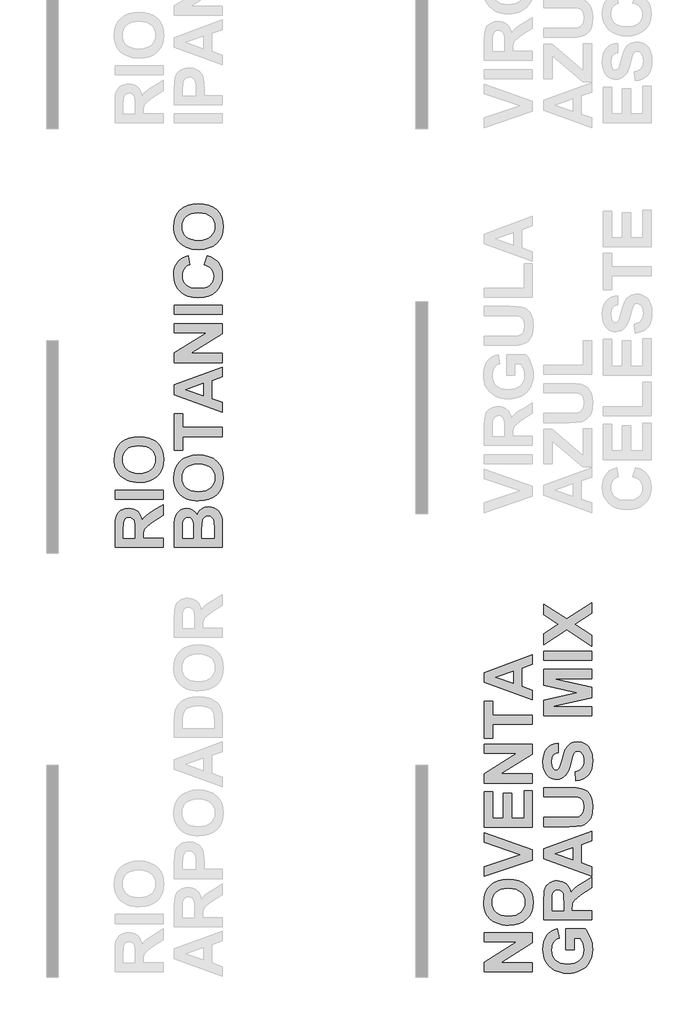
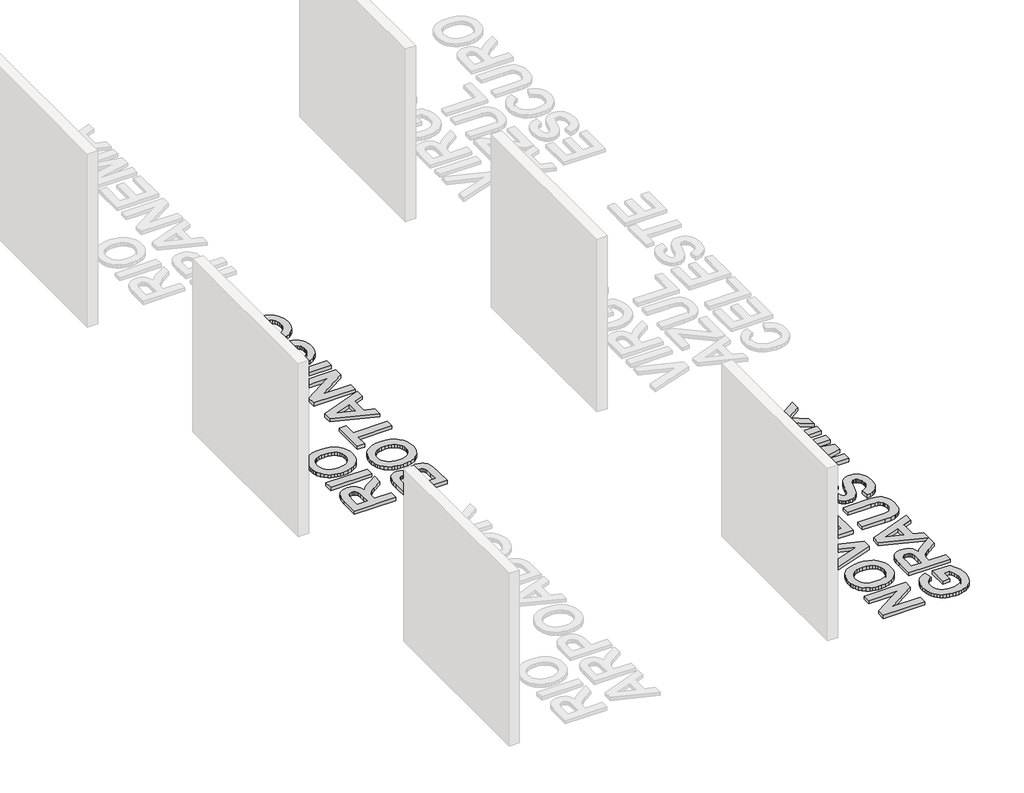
# One storey, part 5 of 12: 2 proxies.
"""IFC4 building model written with IfcOpenShell, lengths in millimetres."""

from ifc_helpers import new_model, si_unit, origin, origin_with_axes, place, context, project, spatial, polyline, outline, extrude, element, save

model = new_model("IFC4")

# Units and contexts
model_context = context("Model", 3, world=origin())
ifc_project = project(units=[si_unit("LENGTHUNIT", "METRE", prefix="MILLI")], contexts=[model_context])

# Site, building, storey
site = spatial("IfcSite", under=ifc_project)
building = spatial("IfcBuilding", under=site)
storey = spatial("IfcBuildingStorey", under=building, Name="PORTOBELLO - SHOWROOM", Elevation=0.0)

# Proxies
placement = place(None, origin())
element("IfcBuildingElementProxy", 1, Name="600mm Arial", ObjectType="600mm Arial", at=placement, inside=storey, context=model_context, shape_type="SweptSolid", body=[
    extrude(outline(polyline([(9936.2154342, -9153.3523318), (9324.0597942, -9153.3523318), (9324.0597942, -9031.1337579), (9736.1109864, -8774.3988404), (9324.0597942, -8774.3988404), (9324.0597942, -8657.7977661), (9936.2154342, -8657.7977661), (9936.2154342, -8783.811948), (9530.2372146, -9036.7512575), (9936.2154342, -9036.7512575), (9936.2154342, -9153.3523318)])), origin_with_axes(), (0.0, 0.0, 1.0), 50.0),
    extrude(outline(polyline([(9633.9332221, -8560.6302042), (9589.126071, -8558.9126917), (9548.0765717, -8553.7601539), (9510.7847242, -8545.1725911), (9477.2505285, -8533.1500031), (9433.0127186, -8508.9150468), (9393.5194186, -8477.2027429), (9361.1998174, -8440.0627197), (9338.4831042, -8399.5446055), (9327.9218253, -8370.3753589), (9320.3780546, -8339.0426158), (9315.8517922, -8305.5463762), (9314.343038, -8269.8866401), (9319.5762324, -8206.784659), (9335.2758155, -8150.3249917), (9361.4417874, -8100.5076382), (9398.074148, -8057.3325984), (9420.0281813, -8038.6510909), (9444.024726, -8022.460451), (9498.14535, -7997.5517742), (9560.4360199, -7982.6065682), (9630.8967358, -7977.6248328), (9700.8782562, -7982.5686121), (9762.7941099, -7997.3999499), (9816.6442968, -8022.1188463), (9840.5447652, -8038.1861289), (9862.4288169, -8056.7253012), (9898.9615428, -8099.6156703), (9925.056347, -8149.1863093), (9940.7132296, -8205.4372182), (9945.9321904, -8268.3683969), (9940.7369521, -8331.9638071), (9925.1512372, -8388.689167), (9899.1750457, -8438.5444765), (9862.8083777, -8481.5297359), (9817.3322507, -8516.1361908), (9764.0276824, -8540.8550871), (9702.8946729, -8555.6864249), (9633.9332221, -8560.6302042)]), holes=[polyline([(9629.6821413, -8444.0291299), (9678.1046089, -8440.930965), (9720.2833015, -8431.6364702), (9756.2182192, -8416.1456455), (9785.9093619, -8394.4584909), (9809.1574602, -8367.9983595), (9825.7632447, -8338.188604), (9835.7267154, -8305.0292246), (9839.0478723, -8268.5202213), (9835.750438, -8232.049174), (9825.8581349, -8199.0036628), (9809.3709631, -8169.3836878), (9786.2889227, -8143.1892488), (9756.6120135, -8121.7677868), (9720.3402356, -8106.4667425), (9677.4735891, -8097.286116), (9628.0120738, -8094.2259071), (9579.2385125, -8097.2054593), (9537.0693088, -8106.1441159), (9501.5044629, -8121.0418768), (9472.5439748, -8141.8987422), (9450.0929541, -8167.6898977), (9434.0565108, -8197.3905295), (9424.4346448, -8231.0006373), (9421.2273561, -8268.5202213), (9424.4726009, -8306.0777613), (9434.2083351, -8339.8017374), (9450.4345588, -8369.6921495), (9473.151272, -8395.7489976), (9502.4059198, -8416.8715555), (9538.2459473, -8431.9590969), (9580.6713544, -8441.0116217), (9629.6821413, -8444.0291299)])]), origin_with_axes(), (0.0, 0.0, 1.0), 50.0),
    extrude(outline(polyline([(9936.2154342, -7732.4285633), (9324.0597942, -7938.7578081), (9324.0597942, -7815.7801125), (9780.7473352, -7661.8302566), (9324.0597942, -7507.4249278), (9324.0597942, -7384.9027052), (9936.2154342, -7602.1633007), (9936.2154342, -7732.4285633)])), origin_with_axes(), (0.0, 0.0, 1.0), 50.0),
    extrude(outline(polyline([(9936.2154342, -7316.8854119), (9324.0597942, -7316.8854119), (9324.0597942, -6860.197871), (9430.9441123, -6860.197871), (9430.9441123, -7200.2843376), (9566.978699, -7200.2843376), (9566.978699, -6879.6313833), (9673.8630171, -6879.6313833), (9673.8630171, -7200.2843376), (9829.3311161, -7200.2843376), (9829.3311161, -6850.4811148), (9936.2154342, -6850.4811148), (9936.2154342, -7316.8854119)])), origin_with_axes(), (0.0, 0.0, 1.0), 50.0),
    extrude(outline(polyline([(9936.2154342, -6753.3135529), (9324.0597942, -6753.3135529), (9324.0597942, -6631.0949789), (9736.1109864, -6374.3600615), (9324.0597942, -6374.3600615), (9324.0597942, -6257.7589872), (9936.2154342, -6257.7589872), (9936.2154342, -6383.773169), (9530.2372146, -6636.7124786), (9936.2154342, -6636.7124786), (9936.2154342, -6753.3135529)])), origin_with_axes(), (0.0, 0.0, 1.0), 50.0),
    extrude(outline(polyline([(9936.2154342, -6005.1233262), (9430.9441123, -6005.1233262), (9430.9441123, -6180.0249377), (9324.0597942, -6180.0249377), (9324.0597942, -5713.6206405), (9430.9441123, -5713.6206405), (9430.9441123, -5888.522252), (9936.2154342, -5888.522252), (9936.2154342, -6005.1233262)])), origin_with_axes(), (0.0, 0.0, 1.0), 50.0),
    extrude(outline(polyline([(9936.2154342, -5120.8985129), (9936.2154342, -5243.4207355), (9800.1808475, -5291.3972192), (9800.1808475, -5522.6256517), (9936.2154342, -5569.9948381), (9936.2154342, -5694.1871282), (9324.0597942, -5470.7017358), (9324.0597942, -5346.5094457), (9936.2154342, -5120.8985129)]), holes=[polyline([(9693.2965295, -5328.7460008), (9469.8111371, -5407.5428205), (9693.2965295, -5485.2768701), (9693.2965295, -5328.7460008)])]), origin_with_axes(), (0.0, 0.0, 1.0), 50.0),
    extrude(outline(polyline([(10468.1981409, -8871.5664023), (10361.3138228, -8871.5664023), (10361.3138228, -8609.2139852), (10605.4473221, -8609.2139852), (10623.927188, -8630.4883674), (10641.2588825, -8656.0517865), (10672.4777573, -8720.0457355), (10685.1313651, -8756.4456151), (10694.1696564, -8793.0732312), (10699.5926312, -8829.9285838), (10701.4002894, -8867.0116728), (10698.8856992, -8912.7202808), (10691.3419285, -8955.4113805), (10678.7689774, -8995.084972), (10661.1668458, -9031.7410551), (10638.8913721, -9064.7059096), (10612.2983943, -9093.305815), (10581.3879126, -9117.5407714), (10546.1599269, -9137.4107787), (10507.952389, -9152.8873698), (10468.1032507, -9163.9420778), (10426.612512, -9170.5749026), (10383.4801728, -9172.7858442), (10337.131056, -9170.2854875), (10293.4293757, -9162.7844174), (10252.3751319, -9150.2826339), (10213.9683246, -9132.7801371), (10179.0439876, -9110.4572182), (10148.4371545, -9083.4941687), (10122.1478253, -9051.8909885), (10100.1760002, -9015.6476777), (10086.8913726, -8984.4667589), (10077.4023529, -8949.6800126), (10071.708941, -8911.2874388), (10069.8111371, -8869.2890376), (10072.8760905, -8815.5384854), (10082.0709506, -8768.0032411), (10097.3957174, -8726.6833048), (10118.850391, -8691.5786763), (10145.7138058, -8662.4331523), (10177.2647964, -8638.990529), (10213.5033627, -8621.2508067), (10254.4295047, -8609.2139852), (10273.8630171, -8725.8150595), (10252.5079782, -8734.1369297), (10233.5346833, -8745.4383522), (10216.9431323, -8759.7193269), (10202.7333253, -8776.9798538), (10191.3417571, -8796.8973062), (10183.2049227, -8819.1490574), (10178.3228221, -8843.7351075), (10176.6954552, -8870.6554564), (10179.8742768, -8910.9932792), (10189.4107416, -8946.985131), (10205.3048496, -8978.6310118), (10227.5566009, -9005.9309215), (10256.0711051, -9027.9169802), (10290.7534722, -9043.6213078), (10331.6037021, -9053.0439044), (10378.6217947, -9056.1847699), (10429.2219924, -9053.0628824), (10473.075497, -9043.69722), (10510.1823086, -9028.0877825), (10540.5424272, -9006.2345701), (10564.1558528, -8979.3142212), (10581.0225853, -8948.5033742), (10591.1426248, -8913.8020291), (10594.5159713, -8875.2101859), (10590.8152537, -8835.1855007), (10579.7131006, -8794.9710351), (10563.3350526, -8757.5273633), (10543.80665, -8725.8150595), (10468.1981409, -8725.8150595), (10468.1981409, -8871.5664023)])), origin_with_axes(), (0.0, 0.0, 1.0), 50.0),
    extrude(outline(polyline([(10691.6835332, -8492.6129109), (10079.5278933, -8492.6129109), (10079.5278933, -8235.1188719), (10083.6651059, -8151.2359376), (10088.8366216, -8119.2579411), (10096.0767437, -8093.9222585), (10105.9643022, -8073.008459), (10119.0781275, -8054.2961121), (10135.4182194, -8037.7852178), (10154.9845781, -8023.4757761), (10176.9326807, -8011.9181501), (10200.4180045, -8003.6627029), (10225.4405495, -7998.7094346), (10252.0003156, -7997.0583452), (10285.1075054, -7999.4448337), (10315.197187, -8006.604299), (10342.2693602, -8018.5367413), (10366.3240252, -8035.2421605), (10386.7823517, -8056.7015786), (10403.0655095, -8082.8960176), (10415.1734987, -8113.8254773), (10423.1063192, -8149.4899579), (10447.4741218, -8115.6710917), (10474.1192892, -8088.3047588), (10512.7206214, -8059.989524), (10572.9569186, -8023.3239518), (10691.6835332, -7948.4745642), (10691.6835332, -8084.6609752), (10551.8533387, -8173.3263755), (10498.1644651, -8216.1598105), (10468.8813503, -8242.9378241), (10454.4770184, -8262.2574682), (10445.4244936, -8282.7157948), (10440.6420276, -8309.8733692), (10439.0478723, -8349.2907571), (10439.0478723, -8376.0118366), (10691.6835332, -8376.0118366), (10691.6835332, -8492.6129109)]), holes=[polyline([(10332.1635542, -8376.0118366), (10332.1635542, -8279.9070449), (10330.3985965, -8204.0518213), (10325.1037235, -8163.2300585), (10315.5008356, -8142.4680833), (10300.8118331, -8126.7922228), (10281.4352548, -8116.9426203), (10257.7696396, -8113.6594195), (10231.5609672, -8117.9864125), (10210.9318383, -8130.9673914), (10196.3756821, -8151.8432348), (10188.3859275, -8179.854821), (10186.4122114, -8274.5931939), (10186.4122114, -8376.0118366), (10332.1635542, -8376.0118366)])]), origin_with_axes(), (0.0, 0.0, 1.0), 50.0),
    extrude(outline(polyline([(10691.6835332, -7365.4691928), (10691.6835332, -7487.9914154), (10555.6489466, -7535.9678991), (10555.6489466, -7767.1963316), (10691.6835332, -7814.565518), (10691.6835332, -7938.7578081), (10079.5278933, -7715.2724157), (10079.5278933, -7591.0801256), (10691.6835332, -7365.4691928)]), holes=[polyline([(10448.7646285, -7573.3166807), (10225.2792361, -7652.1135004), (10448.7646285, -7729.84755), (10448.7646285, -7573.3166807)])]), origin_with_axes(), (0.0, 0.0, 1.0), 50.0),
    extrude(outline(polyline([(10079.5278933, -7307.1686557), (10079.5278933, -7190.5675814), (10409.7457794, -7190.5675814), (10474.5747621, -7189.3150308), (10511.7717194, -7185.557379), (10529.5304198, -7179.7406099), (10545.4577394, -7170.9442886), (10559.5536782, -7159.1684152), (10571.8182362, -7144.4129895), (10581.7484953, -7126.6780117), (10588.8415376, -7105.9634816), (10594.5159713, -7055.595765), (10589.1641642, -7005.2849824), (10582.4744053, -6985.4386977), (10573.1087429, -6969.1318173), (10549.2533473, -6945.8457629), (10520.5016176, -6934.1363126), (10478.9966453, -6929.6954514), (10416.8815222, -6928.2151643), (10079.5278933, -6928.2151643), (10079.5278933, -6811.61409), (10400.6363205, -6811.61409), (10494.6535278, -6814.1571473), (10556.2562438, -6821.7863191), (10598.1407769, -6836.2475852), (10633.0034353, -6859.2869251), (10661.1478678, -6891.2269654), (10682.877723, -6932.390333), (10696.7696478, -6985.1682606), (10701.4002894, -7051.9519814), (10696.3521309, -7130.1794599), (10690.0419328, -7161.2370215), (10681.2076555, -7186.9237979), (10657.9785352, -7228.1061434), (10628.6764423, -7259.647645), (10595.5407855, -7281.813995), (10560.8109733, -7294.8708861), (10495.7542541, -7304.0942133), (10405.6465229, -7307.1686557), (10079.5278933, -7307.1686557)])), origin_with_axes(), (0.0, 0.0, 1.0), 50.0),
    extrude(outline(polyline([(10487.6316533, -6724.1632843), (10477.9148971, -6607.56221), (10505.9834174, -6600.5023793), (10530.0665494, -6590.5578867), (10550.1642932, -6577.728732), (10566.2766487, -6562.0149154), (10578.6313523, -6543.3689916), (10587.4561407, -6521.7435157), (10592.7510137, -6497.1384876), (10594.5159713, -6469.5539073), (10592.9550276, -6440.564952), (10588.2721964, -6415.3905827), (10580.4674777, -6394.0307993), (10569.5408715, -6376.4856019), (10556.5266809, -6362.8024354), (10542.4592092, -6353.0287451), (10527.3384563, -6347.1645309), (10511.1644222, -6345.2097929), (10491.3323709, -6348.4550376), (10474.6506743, -6358.1907719), (10460.549991, -6376.049107), (10448.4609799, -6403.6621543), (10422.4990219, -6504.7771484), (10409.8311806, -6551.70984), (10395.6640742, -6591.0892718), (10379.9977026, -6622.9154439), (10362.8320659, -6647.1883564), (10336.2533217, -6672.3627257), (10306.9227618, -6690.344418), (10274.8403861, -6701.1334334), (10240.0061947, -6704.7297719), (10217.0807231, -6703.0786825), (10194.914373, -6698.1254142), (10173.5071446, -6689.869967), (10152.8590376, -6678.312341), (10133.795597, -6663.6423165), (10117.1423674, -6646.049674), (10102.8993488, -6625.5344134), (10091.0665413, -6602.0965347), (10081.7673019, -6575.9163293), (10075.1249881, -6547.1740885), (10069.8111371, -6482.0035011), (10073.122805, -6428.0916356), (10083.0578086, -6381.2870458), (10099.616148, -6341.5897319), (10122.7978232, -6308.9996936), (10151.5021078, -6283.412552), (10184.6282757, -6264.7239276), (10222.1763267, -6252.9338206), (10264.1462609, -6248.042231), (10264.1462609, -6364.6433053), (10242.4780844, -6369.9144557), (10224.0836196, -6377.529394), (10208.9628667, -6387.4881202), (10197.1158256, -6399.7906343), (10188.1819135, -6414.9493433), (10181.8005478, -6433.4766543), (10176.6954552, -6480.6370823), (10182.1231745, -6530.2836334), (10188.9078236, -6550.5521796), (10198.4063323, -6567.7842394), (10214.7274462, -6583.0425831), (10235.7551139, -6588.1286976), (10255.6061431, -6583.498056), (10272.3447739, -6569.6061312), (10282.0662746, -6553.6408555), (10291.9490887, -6529.2777974), (10312.1986567, -6455.3583338), (10333.2642805, -6376.4666238), (10355.3167623, -6321.221551), (10382.0188638, -6282.5063506), (10417.0333466, -6253.2042577), (10437.7668546, -6242.4437094), (10460.7967055, -6234.7576034), (10486.1228991, -6230.1459398), (10513.7454355, -6228.6087186), (10539.4417009, -6230.4258659), (10564.3029326, -6235.8773077), (10588.3291305, -6244.9630441), (10611.5202947, -6257.683075), (10632.832633, -6273.7290074), (10651.2223532, -6292.792448), (10666.6894553, -6314.8733969), (10679.2339394, -6339.971854), (10688.9317175, -6368.2159212), (10695.8587019, -6399.7337002), (10701.4002894, -6472.5903936), (10697.9889869, -6527.0763448), (10687.7550791, -6574.84407), (10670.6985661, -6615.8935693), (10646.819448, -6650.2248427), (10616.4023953, -6678.0751155), (10579.7320786, -6699.6816134), (10536.8084979, -6715.0443364), (10487.6316533, -6724.1632843)])), origin_with_axes(), (0.0, 0.0, 1.0), 50.0),
    extrude(outline(polyline([(10691.6835332, -5898.2390081), (10079.5278933, -5898.2390081), (10079.5278933, -5698.438209), (10497.0447608, -5601.8779443), (10079.5278933, -5505.3176797), (10079.5278933, -5305.5168805), (10691.6835332, -5305.5168805), (10691.6835332, -5422.1179548), (10209.7931559, -5426.9763329), (10691.6835332, -5533.5570024), (10691.6835332, -5670.047062), (10209.7931559, -5776.7795558), (10691.6835332, -5781.6379339), (10691.6835332, -5898.2390081)])), origin_with_axes(), (0.0, 0.0, 1.0), 50.0),
    extrude(outline(polyline([(10691.6835332, -5188.9158063), (10079.5278933, -5188.9158063), (10079.5278933, -5072.314732), (10691.6835332, -5072.314732), (10691.6835332, -5188.9158063)])), origin_with_axes(), (0.0, 0.0, 1.0), 50.0),
    extrude(outline(polyline([(10691.6835332, -5009.1558168), (10370.7269303, -4800.397383), (10079.5278933, -4989.7223044), (10079.5278933, -4853.3840691), (10265.8163284, -4732.2282653), (10079.5278933, -4611.0724616), (10079.5278933, -4474.7342263), (10370.7269303, -4664.0591477), (10691.6835332, -4455.3007139), (10691.6835332, -4591.6389492), (10475.485708, -4732.2282653), (10691.6835332, -4872.8175815), (10691.6835332, -5009.1558168)])), origin_with_axes(), (0.0, 0.0, 1.0), 50.0),
])
element("IfcBuildingElementProxy", 2, Name="600mm Arial", ObjectType="600mm Arial", at=placement, inside=storey, context=model_context, shape_type="SweptSolid", body=[
    extrude(outline(polyline([(5236.2154342, -3753.3523318), (4624.0597942, -3753.3523318), (4624.0597942, -3495.8582928), (4628.1970068, -3411.9753585), (4633.3685226, -3379.997362), (4640.6086446, -3354.6616794), (4650.4962032, -3333.7478799), (4663.6100284, -3315.0355331), (4679.9501204, -3298.5246387), (4699.516479, -3284.215197), (4721.4645816, -3272.657571), (4744.9499054, -3264.4021238), (4769.9724504, -3259.4488556), (4796.5322166, -3257.7977661), (4829.6394064, -3260.1842546), (4859.7290879, -3267.34372), (4886.8012612, -3279.2761623), (4910.8559262, -3295.9815815), (4931.3142527, -3317.4409996), (4947.5974105, -3343.6354385), (4959.7053997, -3374.5648982), (4967.6382201, -3410.2293789), (4992.0060228, -3376.4105126), (5018.6511901, -3349.0441797), (5057.2525223, -3320.7289449), (5117.4888195, -3284.0633727), (5236.2154342, -3209.2139852), (5236.2154342, -3345.4003961), (5096.3852397, -3434.0657964), (5042.6963661, -3476.8992314), (5013.4132513, -3503.677245), (4999.0089193, -3522.9968892), (4989.9563945, -3543.4552157), (4985.1739286, -3570.6127901), (4983.5797733, -3610.030178), (4983.5797733, -3636.7512575), (5236.2154342, -3636.7512575), (5236.2154342, -3753.3523318)]), holes=[polyline([(4876.6954552, -3636.7512575), (4876.6954552, -3540.6464658), (4874.9304975, -3464.7912422), (4869.6356245, -3423.9694794), (4860.0327366, -3403.2075043), (4845.343734, -3387.5316437), (4825.9671558, -3377.6820412), (4802.3015406, -3374.3988404), (4776.0928681, -3378.7258334), (4755.4637393, -3391.7068124), (4740.907583, -3412.5826557), (4732.9178284, -3440.5942419), (4730.9441123, -3535.3326148), (4730.9441123, -3636.7512575), (4876.6954552, -3636.7512575)])]), origin_with_axes(), (0.0, 0.0, 1.0), 50.0),
    extrude(outline(polyline([(5236.2154342, -3141.1966918), (4624.0597942, -3141.1966918), (4624.0597942, -3024.5956176), (5236.2154342, -3024.5956176), (5236.2154342, -3141.1966918)])), origin_with_axes(), (0.0, 0.0, 1.0), 50.0),
    extrude(outline(polyline([(4933.9332221, -2927.4280557), (4889.126071, -2925.7105431), (4848.0765717, -2920.5580054), (4810.7847242, -2911.9704425), (4777.2505285, -2899.9478546), (4733.0127186, -2875.7128982), (4693.5194186, -2844.0005943), (4661.1998174, -2806.8605711), (4638.4831042, -2766.3424569), (4627.9218253, -2737.1732103), (4620.3780546, -2705.8404672), (4615.8517922, -2672.3442276), (4614.343038, -2636.6844915), (4619.5762324, -2573.5825104), (4635.2758155, -2517.1228431), (4661.4417874, -2467.3054896), (4698.074148, -2424.1304499), (4720.0281813, -2405.4489423), (4744.024726, -2389.2583024), (4798.14535, -2364.3496257), (4860.4360199, -2349.4044196), (4930.8967358, -2344.4226843), (5000.8782562, -2349.3664635), (5062.7941099, -2364.1978013), (5116.6442968, -2388.9166977), (5140.5447652, -2404.9839803), (5162.4288169, -2423.5231526), (5198.9615428, -2466.4135217), (5225.056347, -2515.9841607), (5240.7132296, -2572.2350696), (5245.9321904, -2635.1662484), (5240.7369521, -2698.7616585), (5225.1512372, -2755.4870184), (5199.1750457, -2805.342328), (5162.8083777, -2848.3275873), (5117.3322507, -2882.9340422), (5064.0276824, -2907.6529386), (5002.8946729, -2922.4842764), (4933.9332221, -2927.4280557)]), holes=[polyline([(4929.6821413, -2810.8269814), (4978.1046089, -2807.7288164), (5020.2833015, -2798.4343216), (5056.2182192, -2782.9434969), (5085.9093619, -2761.2563424), (5109.1574602, -2734.7962109), (5125.7632447, -2704.9864555), (5135.7267154, -2671.8270761), (5139.0478723, -2635.3180727), (5135.750438, -2598.8470254), (5125.8581349, -2565.8015143), (5109.3709631, -2536.1815392), (5086.2889227, -2509.9871003), (5056.6120135, -2488.5656383), (5020.3402356, -2473.264594), (4977.4735891, -2464.0839674), (4928.0120738, -2461.0237585), (4879.2385125, -2464.0033107), (4837.0693088, -2472.9419673), (4801.5044629, -2487.8397283), (4772.5439748, -2508.6965936), (4750.0929541, -2534.4877492), (4734.0565108, -2564.1883809), (4724.4346448, -2597.7984887), (4721.2273561, -2635.3180727), (4724.4726009, -2672.8756127), (4734.2083351, -2706.5995888), (4750.4345588, -2736.4900009), (4773.151272, -2762.5468491), (4802.4059198, -2783.6694069), (4838.2459473, -2798.7569483), (4880.6713544, -2807.8094731), (4929.6821413, -2810.8269814)])]), origin_with_axes(), (0.0, 0.0, 1.0), 50.0),
    extrude(outline(polyline([(5379.5278933, -3753.3523318), (5379.5278933, -3502.0830897), (5381.0461364, -3437.0073925), (5385.6008659, -3390.8717786), (5394.9949954, -3356.1419665), (5411.0314387, -3325.2836743), (5433.5773496, -3298.7713533), (5462.4998817, -3277.0794542), (5496.5654625, -3262.6181881), (5534.5405194, -3257.7977661), (5575.9126453, -3263.5481121), (5613.792812, -3280.7991499), (5645.4102257, -3307.9187683), (5667.9940927, -3343.2748557), (5677.5400465, -3319.4574162), (5689.9327063, -3298.5625948), (5705.1720719, -3280.5903915), (5723.2581435, -3265.5408062), (5743.6310688, -3253.6510645), (5765.7309958, -3245.1583919), (5789.5579243, -3240.0627883), (5815.1118544, -3238.3642537), (5856.1233976, -3243.2416099), (5895.9583023, -3257.8736783), (5931.2574557, -3280.9509742), (5958.6617446, -3311.164013), (5977.620806, -3348.8733774), (5987.5842767, -3394.43965), (5991.6835332, -3544.1384251), (5991.6835332, -3753.3523318), (5379.5278933, -3753.3523318)]), holes=[polyline([(5729.3311161, -3636.7512575), (5884.7992152, -3636.7512575), (5884.7992152, -3513.4699134), (5881.1554316, -3422.0716755), (5873.0138527, -3395.0849034), (5858.0022235, -3373.6397188), (5836.4241926, -3359.6339257), (5808.5834088, -3354.965328), (5784.4433426, -3358.5711555), (5764.2507087, -3369.388638), (5748.4989359, -3387.0002586), (5737.6814535, -3410.9885004), (5731.4187005, -3454.106606), (5729.3311161, -3529.1078179), (5729.3311161, -3636.7512575)]), polyline([(5486.4122114, -3636.7512575), (5622.446798, -3636.7512575), (5622.446798, -3547.7822087), (5620.4730819, -3449.0964036), (5613.3752952, -3418.0293531), (5599.3695021, -3394.3637379), (5579.138912, -3379.3900648), (5553.3667345, -3374.3988404), (5528.7142613, -3378.7068554), (5509.1099465, -3391.6309002), (5495.388824, -3413.0191507), (5488.3859275, -3442.7197824), (5486.4122114, -3558.7135594), (5486.4122114, -3636.7512575)])]), origin_with_axes(), (0.0, 0.0, 1.0), 50.0),
    extrude(outline(polyline([(5689.4013211, -3160.6302042), (5644.59417, -3158.9126917), (5603.5446708, -3153.7601539), (5566.2528233, -3145.1725911), (5532.7186276, -3133.1500031), (5488.4808177, -3108.9150468), (5448.9875176, -3077.2027429), (5416.6679164, -3040.0627197), (5393.9512032, -2999.5446055), (5383.3899243, -2970.3753589), (5375.8461536, -2939.0426158), (5371.3198912, -2905.5463762), (5369.8111371, -2869.8866401), (5375.0443315, -2806.784659), (5390.7439146, -2750.3249917), (5416.9098864, -2700.5076382), (5453.5422471, -2657.3325984), (5475.4962803, -2638.6510909), (5499.492825, -2622.460451), (5553.613449, -2597.5517742), (5615.9041189, -2582.6065682), (5686.3648348, -2577.6248328), (5756.3463553, -2582.5686121), (5818.2622089, -2597.3999499), (5872.1123958, -2622.1188463), (5896.0128642, -2638.1861289), (5917.8969159, -2656.7253012), (5954.4296418, -2699.6156703), (5980.5244461, -2749.1863093), (5996.1813286, -2805.4372182), (6001.4002894, -2868.3683969), (5996.2050511, -2931.9638071), (5980.6193363, -2988.689167), (5954.6431448, -3038.5444765), (5918.2764767, -3081.5297359), (5872.8003497, -3116.1361908), (5819.4957815, -3140.8550871), (5758.3627719, -3155.6864249), (5689.4013211, -3160.6302042)]), holes=[polyline([(5685.1502403, -3044.0291299), (5733.5727079, -3040.930965), (5775.7514006, -3031.6364702), (5811.6863182, -3016.1456455), (5841.3774609, -2994.4584909), (5864.6255592, -2967.9983595), (5881.2313437, -2938.188604), (5891.1948144, -2905.0292246), (5894.5159713, -2868.5202213), (5891.218537, -2832.049174), (5881.3262339, -2799.0036628), (5864.8390622, -2769.3836878), (5841.7570217, -2743.1892488), (5812.0801126, -2721.7677868), (5775.8083347, -2706.4667425), (5732.9416881, -2697.286116), (5683.4801728, -2694.2259071), (5634.7066115, -2697.2054593), (5592.5374079, -2706.1441159), (5556.972562, -2721.0418768), (5528.0120738, -2741.8987422), (5505.5610532, -2767.6898977), (5489.5246098, -2797.3905295), (5479.9027438, -2831.0006373), (5476.6954552, -2868.5202213), (5479.9406999, -2906.0777613), (5489.6764341, -2939.8017374), (5505.9026579, -2969.6921495), (5528.6193711, -2995.7489976), (5557.8740189, -3016.8715555), (5593.7140463, -3031.9590969), (5636.1394535, -3041.0116217), (5685.1502403, -3044.0291299)])]), origin_with_axes(), (0.0, 0.0, 1.0), 50.0),
    extrude(outline(polyline([(5991.6835332, -2344.4226843), (5486.4122114, -2344.4226843), (5486.4122114, -2519.3242957), (5379.5278933, -2519.3242957), (5379.5278933, -2052.9199986), (5486.4122114, -2052.9199986), (5486.4122114, -2227.82161), (5991.6835332, -2227.82161), (5991.6835332, -2344.4226843)])), origin_with_axes(), (0.0, 0.0, 1.0), 50.0),
    extrude(outline(polyline([(5991.6835332, -1460.197871), (5991.6835332, -1582.7200935), (5855.6489466, -1630.6965772), (5855.6489466, -1861.9250097), (5991.6835332, -1909.2941961), (5991.6835332, -2033.4864862), (5379.5278933, -1810.0010938), (5379.5278933, -1685.8088037), (5991.6835332, -1460.197871)]), holes=[polyline([(5748.7646285, -1668.0453588), (5525.2792361, -1746.8421786), (5748.7646285, -1824.5762281), (5748.7646285, -1668.0453588)])]), origin_with_axes(), (0.0, 0.0, 1.0), 50.0),
    extrude(outline(polyline([(5991.6835332, -1401.8973338), (5379.5278933, -1401.8973338), (5379.5278933, -1279.6787599), (5791.5790855, -1022.9438424), (5379.5278933, -1022.9438424), (5379.5278933, -906.3427681), (5991.6835332, -906.3427681), (5991.6835332, -1032.35695), (5585.7053137, -1285.2962595), (5991.6835332, -1285.2962595), (5991.6835332, -1401.8973338)])), origin_with_axes(), (0.0, 0.0, 1.0), 50.0),
    extrude(outline(polyline([(5991.6835332, -789.7416938), (5379.5278933, -789.7416938), (5379.5278933, -673.1406196), (5991.6835332, -673.1406196), (5991.6835332, -789.7416938)])), origin_with_axes(), (0.0, 0.0, 1.0), 50.0),
    extrude(outline(polyline([(5758.4813847, -158.1525415), (5797.3484094, -41.5514672), (5843.4508117, -57.6543337), (5883.2240379, -78.3309076), (5916.6680879, -103.5811891), (5943.7829617, -133.4051781), (5964.7394618, -167.6795173), (5979.7083904, -206.2808495), (5988.6897475, -249.2091747), (5991.6835332, -296.4644929), (5986.5689516, -354.8504312), (5971.2252067, -407.7896722), (5945.6522986, -455.2822159), (5909.8502272, -497.3280623), (5865.1759224, -531.7352477), (5812.9863139, -556.3118088), (5753.2814019, -571.0577455), (5686.0611862, -575.9730577), (5615.1782089, -571.0150449), (5552.6835251, -556.1410065), (5498.5771346, -531.3509424), (5474.6695495, -515.2374008), (5452.8590376, -496.6448528), (5416.5255812, -453.8541184), (5390.5731122, -404.81012), (5375.0016309, -349.5128576), (5369.8111371, -287.9623312), (5374.090685, -234.1406114), (5386.9293287, -185.6327426), (5408.3270681, -142.4387248), (5438.2839034, -104.5585581), (5460.6874789, -84.8498642), (5487.5129377, -67.7791177), (5518.7602796, -53.3463187), (5554.4295047, -41.5514672), (5573.8630171, -158.1525415), (5552.5079782, -165.5017873), (5533.5346833, -176.0108766), (5516.9431323, -189.6798095), (5502.7333253, -206.508586), (5491.3417571, -225.9088868), (5483.2049227, -247.2923927), (5478.3228221, -270.6591038), (5476.6954552, -296.0090199), (5479.6512848, -330.6581754), (5488.5187737, -361.8817948), (5503.297922, -389.6798781), (5523.9887294, -414.0524252), (5551.2933837, -433.8797319), (5585.9140721, -448.0420938), (5627.8507948, -456.539511), (5677.1035516, -459.3719834), (5729.2362259, -456.6249122), (5773.2842554, -448.3836986), (5809.2476402, -434.6483425), (5837.1263801, -415.4188441), (5857.9832454, -391.7864404), (5872.8810064, -364.842369), (5881.819663, -334.5866296), (5884.7992152, -301.0192223), (5882.8966667, -276.0298889), (5877.1890213, -252.8339802), (5867.6762791, -231.4314963), (5854.3584399, -211.822437), (5836.9508332, -194.4338084), (5815.1687885, -179.6926162), (5789.0123056, -167.5988606), (5758.4813847, -158.1525415)])), origin_with_axes(), (0.0, 0.0, 1.0), 50.0),
    extrude(outline(polyline([(5689.4013211, 36.1825823), (5644.59417, 37.9000949), (5603.5446708, 43.0526326), (5566.2528233, 51.6401954), (5532.7186276, 63.6627834), (5488.4808177, 87.8977398), (5448.9875176, 119.6100437), (5416.6679164, 156.7500668), (5393.9512032, 197.268181), (5383.3899243, 226.4374276), (5375.8461536, 257.7701707), (5371.3198912, 291.2664103), (5369.8111371, 326.9261464), (5375.0443315, 390.0281276), (5390.7439146, 446.4877949), (5416.9098864, 496.3051484), (5453.5422471, 539.4801881), (5475.4962803, 558.1616957), (5499.492825, 574.3523356), (5553.613449, 599.2610123), (5615.9041189, 614.2062184), (5686.3648348, 619.1879537), (5756.3463553, 614.2441744), (5818.2622089, 599.4128366), (5872.1123958, 574.6939403), (5896.0128642, 558.6266576), (5917.8969159, 540.0874854), (5954.4296418, 497.1971162), (5980.5244461, 447.6264772), (5996.1813286, 391.3755684), (6001.4002894, 328.4443896), (5996.2050511, 264.8489794), (5980.6193363, 208.1236196), (5954.6431448, 158.26831), (5918.2764767, 115.2830507), (5872.8003497, 80.6765958), (5819.4957815, 55.9576994), (5758.3627719, 41.1263616), (5689.4013211, 36.1825823)]), holes=[polyline([(5685.1502403, 152.7836566), (5733.5727079, 155.8818215), (5775.7514006, 165.1763163), (5811.6863182, 180.667141), (5841.3774609, 202.3542956), (5864.6255592, 228.8144271), (5881.2313437, 258.6241825), (5891.1948144, 291.7835619), (5894.5159713, 328.2925653), (5891.218537, 364.7636126), (5881.3262339, 397.8091237), (5864.8390622, 427.4290988), (5841.7570217, 453.6235377), (5812.0801126, 475.0449997), (5775.8083347, 490.346044), (5732.9416881, 499.5266706), (5683.4801728, 502.5868794), (5634.7066115, 499.6073272), (5592.5374079, 490.6686707), (5556.972562, 475.7709097), (5528.0120738, 454.9140444), (5505.5610532, 429.1228888), (5489.5246098, 399.4222571), (5479.9027438, 365.8121492), (5476.6954552, 328.2925653), (5479.9406999, 290.7350252), (5489.6764341, 257.0110492), (5505.9026579, 227.1206371), (5528.6193711, 201.0637889), (5557.8740189, 179.941231), (5593.7140463, 164.8536897), (5636.1394535, 155.8011649), (5685.1502403, 152.7836566)])]), origin_with_axes(), (0.0, 0.0, 1.0), 50.0),
])

save(model, "model.ifc")
